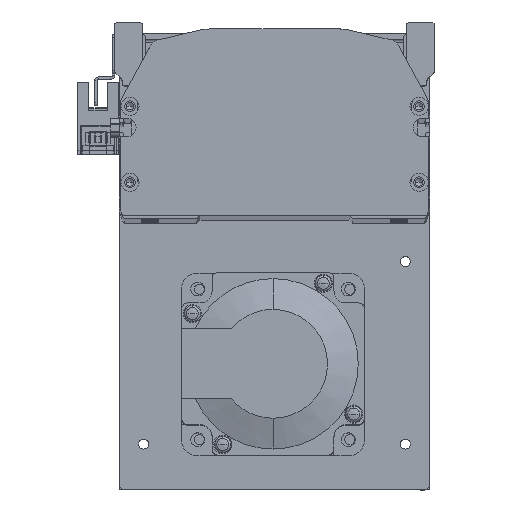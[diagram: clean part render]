
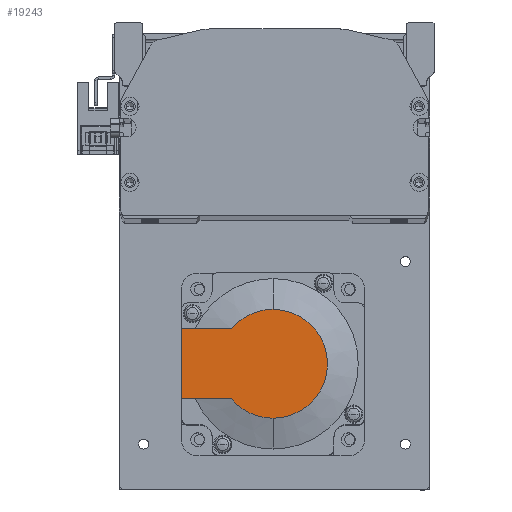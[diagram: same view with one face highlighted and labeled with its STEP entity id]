
A CAD part, top view. The second image highlights one B-rep face of the part: STEP entity #19243.
In plain terms, the highlighted planar face has unit normal (0, 0, 1) as drawn and (-1, 0, 0) by its records, which use the part's own axes.
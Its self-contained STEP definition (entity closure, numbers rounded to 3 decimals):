
#866 = CARTESIAN_POINT ( 'NONE',  ( -118.5, 13.735, 11.45 ) ) ;
#1969 = CARTESIAN_POINT ( 'NONE',  ( -118.5, 0., -17.881 ) ) ;
#2748 = ORIENTED_EDGE ( 'NONE', *, *, #23164, .T. ) ;
#3623 = CARTESIAN_POINT ( 'NONE',  ( -118.5, 30., 11.45 ) ) ;
#5323 = DIRECTION ( 'NONE',  ( 0., 0., 1. ) ) ;
#6382 = AXIS2_PLACEMENT_3D ( 'NONE', #9714, #34314, #17947 ) ;
#6500 = ORIENTED_EDGE ( 'NONE', *, *, #33410, .T. ) ;
#7238 = VERTEX_POINT ( 'NONE', #3623 ) ;
#7941 = EDGE_LOOP ( 'NONE', ( #26548, #2748, #6500, #33389, #28541, #15253 ) ) ;
#8103 = EDGE_CURVE ( 'NONE', #16119, #28324, #11782, .T. ) ;
#9486 = VECTOR ( 'NONE', #30961, 1000. ) ;
#9493 = CARTESIAN_POINT ( 'NONE',  ( -118.5, 0., 17.881 ) ) ;
#9714 = CARTESIAN_POINT ( 'NONE',  ( -118.5, 0., 0. ) ) ;
#11782 = LINE ( 'NONE', #13966, #13757 ) ;
#12392 = CARTESIAN_POINT ( 'NONE',  ( -118.5, 13.735, -11.45 ) ) ;
#12856 = CARTESIAN_POINT ( 'NONE',  ( -118.5, 0., 0. ) ) ;
#13156 = DIRECTION ( 'NONE',  ( -1., 0., 0. ) ) ;
#13757 = VECTOR ( 'NONE', #33529, 1000. ) ;
#13966 = CARTESIAN_POINT ( 'NONE',  ( -118.5, -8.941, -11.45 ) ) ;
#15253 = ORIENTED_EDGE ( 'NONE', *, *, #15898, .F. ) ;
#15281 = AXIS2_PLACEMENT_3D ( 'NONE', #12856, #26029, #20909 ) ;
#15898 = EDGE_CURVE ( 'NONE', #16119, #7238, #29409, .T. ) ;
#16119 = VERTEX_POINT ( 'NONE', #29670 ) ;
#17042 = CIRCLE ( 'NONE', #19905, 17.881 ) ;
#17947 = DIRECTION ( 'NONE',  ( 0., 0., -1. ) ) ;
#19243 = ADVANCED_FACE ( 'NONE', ( #29736 ), #32229, .T. ) ;
#19329 = CARTESIAN_POINT ( 'NONE',  ( -118.5, 0., 0. ) ) ;
#19905 = AXIS2_PLACEMENT_3D ( 'NONE', #19329, #27319, #30524 ) ;
#20909 = DIRECTION ( 'NONE',  ( 0., 0., -1. ) ) ;
#22659 = VERTEX_POINT ( 'NONE', #866 ) ;
#23164 = EDGE_CURVE ( 'NONE', #28324, #34566, #33225, .T. ) ;
#23869 = CARTESIAN_POINT ( 'NONE',  ( -118.5, -8.941, 0. ) ) ;
#26029 = DIRECTION ( 'NONE',  ( -1., 0., 0. ) ) ;
#26548 = ORIENTED_EDGE ( 'NONE', *, *, #8103, .T. ) ;
#27319 = DIRECTION ( 'NONE',  ( -1., 0., 0. ) ) ;
#28292 = CARTESIAN_POINT ( 'NONE',  ( -118.5, 0., 11.45 ) ) ;
#28324 = VERTEX_POINT ( 'NONE', #12392 ) ;
#28541 = ORIENTED_EDGE ( 'NONE', *, *, #32542, .F. ) ;
#28731 = VERTEX_POINT ( 'NONE', #9493 ) ;
#28942 = CIRCLE ( 'NONE', #15281, 17.881 ) ;
#29409 = LINE ( 'NONE', #29583, #34960 ) ;
#29547 = AXIS2_PLACEMENT_3D ( 'NONE', #23869, #13156, #5323 ) ;
#29583 = CARTESIAN_POINT ( 'NONE',  ( -118.5, 30., 25. ) ) ;
#29670 = CARTESIAN_POINT ( 'NONE',  ( -118.5, 30., -11.45 ) ) ;
#29736 = FACE_OUTER_BOUND ( 'NONE', #7941, .T. ) ;
#30524 = DIRECTION ( 'NONE',  ( 0., 0., -1. ) ) ;
#30961 = DIRECTION ( 'NONE',  ( 0., -1., 0. ) ) ;
#32229 = PLANE ( 'NONE',  #29547 ) ;
#32241 = DIRECTION ( 'NONE',  ( 0., 0., 1. ) ) ;
#32542 = EDGE_CURVE ( 'NONE', #7238, #22659, #33997, .T. ) ;
#33225 = CIRCLE ( 'NONE', #6382, 17.881 ) ;
#33389 = ORIENTED_EDGE ( 'NONE', *, *, #34328, .T. ) ;
#33410 = EDGE_CURVE ( 'NONE', #34566, #28731, #28942, .T. ) ;
#33529 = DIRECTION ( 'NONE',  ( 0., -1., 0. ) ) ;
#33997 = LINE ( 'NONE', #28292, #9486 ) ;
#34314 = DIRECTION ( 'NONE',  ( -1., 0., 0. ) ) ;
#34328 = EDGE_CURVE ( 'NONE', #28731, #22659, #17042, .T. ) ;
#34566 = VERTEX_POINT ( 'NONE', #1969 ) ;
#34960 = VECTOR ( 'NONE', #32241, 1000. ) ;
